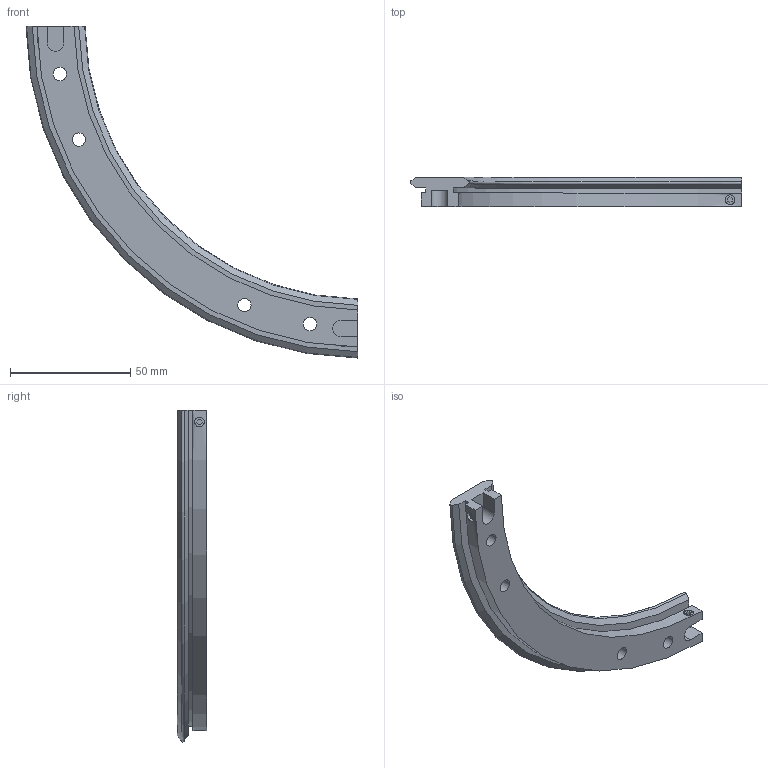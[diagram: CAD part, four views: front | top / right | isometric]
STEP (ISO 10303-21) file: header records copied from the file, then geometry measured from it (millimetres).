
FILE_DESCRIPTION( ( 'STEP AP203' ), '1' );
FILE_NAME( 'p:/temp/worker_29/temp/exporttempdir_2736_401_XGwf4/format_0/TR25 255 R90.stp', '2021-09-17T07:39:12', ( 'License CC BY-ND 4.0' ), ( 'CADENAS' ), ' ', 'PARTsolutions', ' ' );
FILE_SCHEMA( ( 'CONFIG_CONTROL_DESIGN' ) );
Length unit declared in the file: millimetre
Products named in the file (1): _TR25 255 R90
Bounding box: 138.3 x 12.25 x 138.3 mm (x, y, z)
Volume: 38793.4 mm3; surface area: 16722 mm2
Topology: 1 solids, 1 shells, 74 faces, 182 edges, 122 vertices
Faces by surface type: plane 50, cylinder 18, cone 4, torus 2
Full cylindrical faces by diameter (mm): 4 x4, 5.5 x4, 9 x4
Entity records: 2416 total; most frequent: CARTESIAN_POINT 647, DIRECTION 342, ORIENTED_EDGE 336, EDGE_CURVE 168, VERTEX_POINT 120, AXIS2_PLACEMENT_3D 115, LINE 112, VECTOR 112
